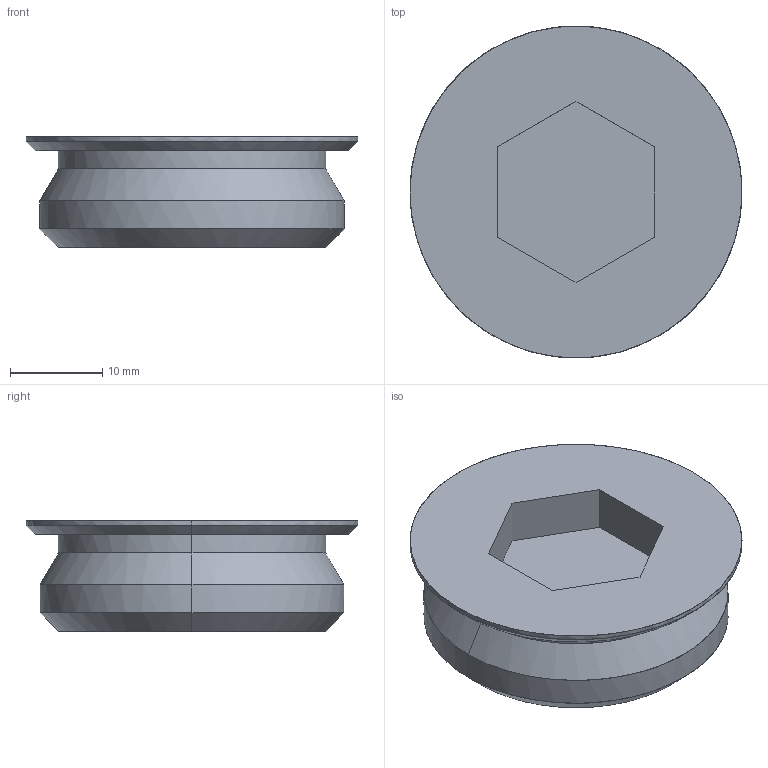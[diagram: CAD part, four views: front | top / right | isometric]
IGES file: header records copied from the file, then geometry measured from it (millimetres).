
Global section: file name: E:\UnigraphicsGraphicData\MISUMI_PRESS-PARTS\IGES\3d_mswzs33-12_00498_r00.igs; native system: NX V5.0; preprocessor: UGS NX IGES V5.0; author: MISUMI; date: 20110105.161531; units: millimetre
Bounding box: 36 x 36 x 12 mm (x, y, z)
Surface area: 3594.6 mm2 (no closed solid volume)
Topology: 0 solids, 0 shells, 22 faces, 148 edges, 148 vertices
Faces by surface type: bspline 22
